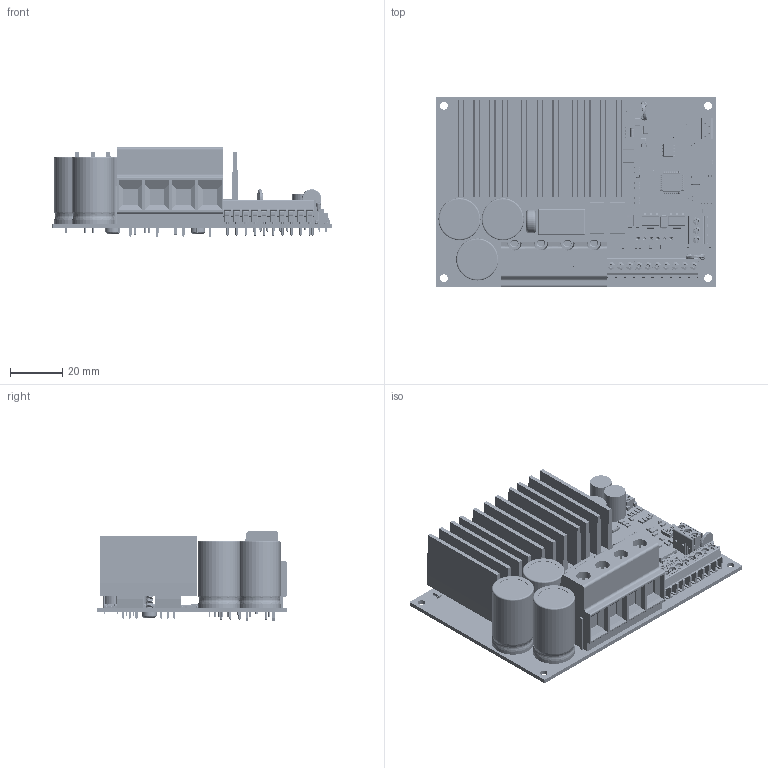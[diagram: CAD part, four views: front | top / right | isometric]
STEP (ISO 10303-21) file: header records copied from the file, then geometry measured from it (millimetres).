
FILE_DESCRIPTION(('STEP AP214'),'1');
FILE_NAME('EM-243C_v8_BoardAndModels.step','2019-07-16T08:20:32',(' '),(' '),'Spatial InterOp 3D','XD3DPlugin XRACreate',' ');
FILE_SCHEMA(('automotive_design'));
Length unit declared in the file: millimetre
Products named in the file (176): Submodel-AssyDefn_1; M3X0_5 THREADFORMING SCREW, TORX HEAD-1.sat; EM-243C_v8_BoardAndModels; Submodel-C:\Users\Tino Hellberg\works\3D kokeiluja\EM-243C_v8_PCB\3D\Input_S\pxc_1773976_01_MKDSP-10N-2-10-16_3D.xtd; pxc_1773976_01_MKDSP-10N-2-10-16_3D; Submodel-DG136T-10.16-02P_part_simplified_CON-H2-18.4_slash_29.3_slash_10.16; DesignRootModel; Submodel-C:\Users\Tino Hellberg\works\3D kokeiluja\EM-243C_v8_PCB\3D\Input_S\SOT-323.xtd; SOT-323; Submodel-BAS21W_0.225A250V_CA_SOT323_part_simplified_SOT323; Submodel-C:\Users\Tino Hellberg\works\3D kokeiluja\EM-243C_v8_PCB\3D\Input_S\c-7-215079-6-t-3d.xtd; c-7-215079-6-t-3d; Submodel-7-215079-6_V_CON_MICROMATCH6_part_simplified_DIL6-V-2.54-MMATCH; Submodel-C:\Users\Tino Hellberg\works\3D kokeiluja\EM-243C_v8_PCB\3D\Input_S\SO-8.xtd; SO-8; Submodel-AP2204MP-ADJTRG1-PSOP8_part_simplified_PSOP-8; Submodel-C:\Users\Tino Hellberg\works\3D kokeiluja\EM-243C_v8_PCB\3D\Input_S\RES 0805.xtd; RES 0805; Submodel-RES0805_18K_part_simplified_0805; Submodel-RES0805_120K_part_simplified_0805; Submodel-C:\Users\Tino Hellberg\works\3D kokeiluja\EM-243C_v8_PCB\3D\Input_S\CAP 0603.xtd; CAP 0603; Submodel-CAP0603_220PF_part_simplified_0603; Submodel-CAP0603_2N2_100V_part_simplified_0603; Submodel-C:\Users\Tino Hellberg\works\3D kokeiluja\EM-243C_v8_PCB\3D\Input_S\SOT-223.xtd; SOT-223; Submodel-IRLL024N_SOT223_NMOS-55V-0.065R_part_simplified_SOT223; Submodel-CAP0603_4N7_part_simplified_0603; Submodel-C:\Users\Tino Hellberg\works\3D kokeiluja\EM-243C_v8_PCB\3D\Input_S\SOD80.xtd; SOD80; Submodel-BZV55-C27_ZENER-27V-0.5W_part_simplified_SOD80; Submodel-C:\Users\Tino Hellberg\works\3D kokeiluja\EM-243C_v8_PCB\3D\Input_S\SOT-23-5.xtd; SOT-23-5; Submodel-FAN3111E_SOT23-5_GATEDRIVER_part_simplified_SOT23-5; Submodel-C:\Users\Tino Hellberg\works\3D kokeiluja\EM-243C_v8_PCB\3D\Input_S\TO-220-H2.xtd; TO-220-H2; Submodel-IPP037N08N3_G_TO220_NMOS-80V-0.0035R_part_simplified_TO220-H2; Submodel-C:\Users\Tino Hellberg\works\3D kokeiluja\EM-243C_v8_PCB\3D\Input_S\SOT669.xtd; SOT669; Submodel-PSMN025-80YL_SOT669_NMOS-80V-0.025R_part_simplified_SOT669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
Assembly tree (279 placements, depth 5):
  EM-243C_v8_BoardAndModels
    Submodel-AssyDefn_1  x2
      M3X0_5 THREADFORMING SCREW, TORX HEAD-1.sat
    DesignRootModel
      Submodel-DG136T-10.16-02P_part_simplified_CON-H2-18.4_slash_29.3_slash_10.16  x2
        Submodel-C:\Users\Tino Hellberg\works\3D kokeiluja\EM-243C_v8_PCB\3D\Input_S\pxc_1773976_01_MKDSP-10N-2-10-16_3D.xtd
          pxc_1773976_01_MKDSP-10N-2-10-16_3D
      Submodel-BAS21W_0.225A250V_CA_SOT323_part_simplified_SOT323
        Submodel-C:\Users\Tino Hellberg\works\3D kokeiluja\EM-243C_v8_PCB\3D\Input_S\SOT-323.xtd
          SOT-323
      Submodel-7-215079-6_V_CON_MICROMATCH6_part_simplified_DIL6-V-2.54-MMATCH
        Submodel-C:\Users\Tino Hellberg\works\3D kokeiluja\EM-243C_v8_PCB\3D\Input_S\c-7-215079-6-t-3d.xtd
          c-7-215079-6-t-3d
      Submodel-AP2204MP-ADJTRG1-PSOP8_part_simplified_PSOP-8
        Submodel-C:\Users\Tino Hellberg\works\3D kokeiluja\EM-243C_v8_PCB\3D\Input_S\SO-8.xtd
          SO-8
      Submodel-RES0805_18K_part_simplified_0805
        Submodel-C:\Users\Tino Hellberg\works\3D kokeiluja\EM-243C_v8_PCB\3D\Input_S\RES 0805.xtd
          RES 0805
      Submodel-RES0805_120K_part_simplified_0805
        Submodel-C:\Users\Tino Hellberg\works\3D kokeiluja\EM-243C_v8_PCB\3D\Input_S\RES 0805.xtd
          RES 0805
      Submodel-CAP0603_220PF_part_simplified_0603  x2
        Submodel-C:\Users\Tino Hellberg\works\3D kokeiluja\EM-243C_v8_PCB\3D\Input_S\CAP 0603.xtd
          CAP 0603
      Submodel-CAP0603_2N2_100V_part_simplified_0603  x2
        Submodel-C:\Users\Tino Hellberg\works\3D kokeiluja\EM-243C_v8_PCB\3D\Input_S\CAP 0603.xtd
          CAP 0603
      Submodel-IRLL024N_SOT223_NMOS-55V-0.065R_part_simplified_SOT223  x2
        Submodel-C:\Users\Tino Hellberg\works\3D kokeiluja\EM-243C_v8_PCB\3D\Input_S\SOT-223.xtd
          SOT-223
      Submodel-CAP0603_4N7_part_simplified_0603  x2
        Submodel-C:\Users\Tino Hellberg\works\3D kokeiluja\EM-243C_v8_PCB\3D\Input_S\CAP 0603.xtd
          CAP 0603
      Submodel-BZV55-C27_ZENER-27V-0.5W_part_simplified_SOD80
        Submodel-C:\Users\Tino Hellberg\works\3D kokeiluja\EM-243C_v8_PCB\3D\Input_S\SOD80.xtd
          SOD80
      Submodel-FAN3111E_SOT23-5_GATEDRIVER_part_simplified_SOT23-5  x3
        Submodel-C:\Users\Tino Hellberg\works\3D kokeiluja\EM-243C_v8_PCB\3D\Input_S\SOT-23-5.xtd
          SOT-23-5
      Submodel-IPP037N08N3_G_TO220_NMOS-80V-0.0035R_part_simplified_TO220-H2  x3
        Submodel-C:\Users\Tino Hellberg\works\3D kokeiluja\EM-243C_v8_PCB\3D\Input_S\TO-220-H2.xtd
          TO-220-H2
      Submodel-PSMN025-80YL_SOT669_NMOS-80V-0.025R_part_simplified_SOT669  x2
        Submodel-C:\Users\Tino Hellberg\works\3D kokeiluja\EM-243C_v8_PCB\3D\Input_S\SOT669.xtd
          SOT669
      Submodel-HS_SK406-37.5_33X37.5_3.6CW_part_simplified_HS-SK406-37.5
        Submodel-C:\Users\Tino Hellberg\works\3D kokeiluja\EM-243C_v8_PCB\3D\Input_S\PV-SK406-37-23.xtd
          PV-SK406-37-23
      Submodel-SIL6_RES_SOCKET_2.54MM_part_simplified_SIL6-V-2.54
        Submodel-C:\Users\Tino Hellberg\works\3D kokeiluja\EM-243C_v8_PCB\3D\Input_S\sil socket 6-way.xtd
          sil socket 6-way
      Submodel-CAP0603_4N7_100V_part_simplified_0603
        Submodel-C:\Users\Tino Hellberg\works\3D kokeiluja\EM-243C_v8_PCB\3D\Input_S\CAP 0603.xtd
          CAP 0603
      Submodel-WL-SMCW_0603_LED-RED_part_simplified_0603_LED
        Submodel-C:\Users\Tino Hellberg\works\3D kokeiluja\EM-243C_v8_PCB\3D\Input_S\LED RED 0603.xtd
          LED RED 0603
      Submodel-PTC_RAD_0.1A60V_part_simplified_PTC-RAD-5.5_slash_2.0_slash_10.5_slash_5.08  x2
        Submodel-C:\Users\Tino Hellberg\works\3D kokeiluja\EM-243C_v8_PCB\3D\Input_S\MF-R010.xtd
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Bounding box: 107 x 73 x 34.3 mm (x, y, z)
Volume: 106115.9 mm3; surface area: 88253.2 mm2
Topology: 523 solids, 1183 shells, 20494 faces, 53934 edges, 35006 vertices
Faces by surface type: plane 12124, cylinder 3856, bspline 2812, sphere 846, torus 600, cone 256
Full cylindrical faces by diameter (mm): 0.6 x2, 0.7 x6, 0.8 x2, 2 x4, 2.8 x18, 3 x6, 8.2 x2, 9 x2, 10.1 x1, 12 x3, 16.1 x6
Entity records: 307261 total; most frequent: CARTESIAN_POINT 76491, ORIENTED_EDGE 35199, DIRECTION 34412, EDGE_CURVE 18026, LINE 12958, VECTOR 12958, VERTEX_POINT 11862, AXIS2_PLACEMENT_3D 10727
